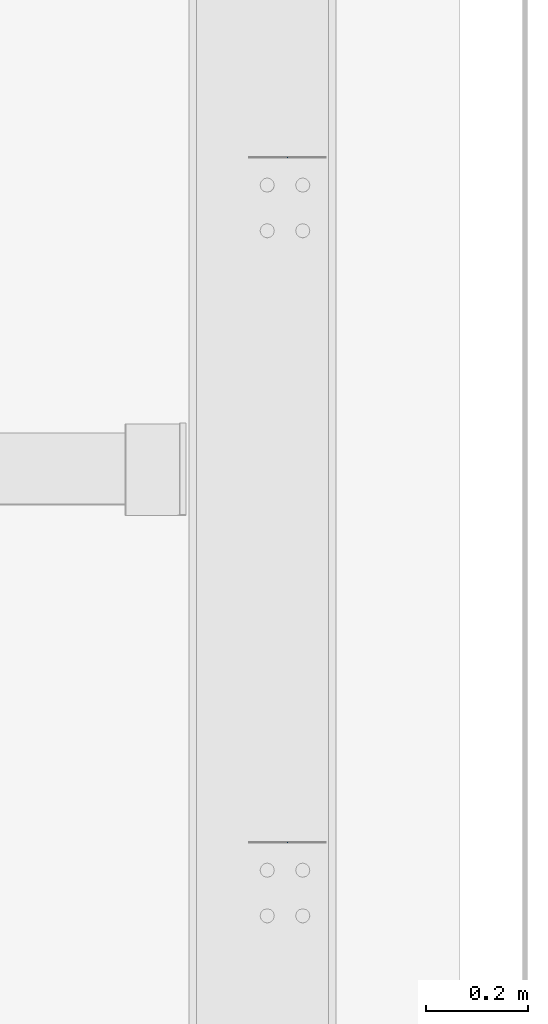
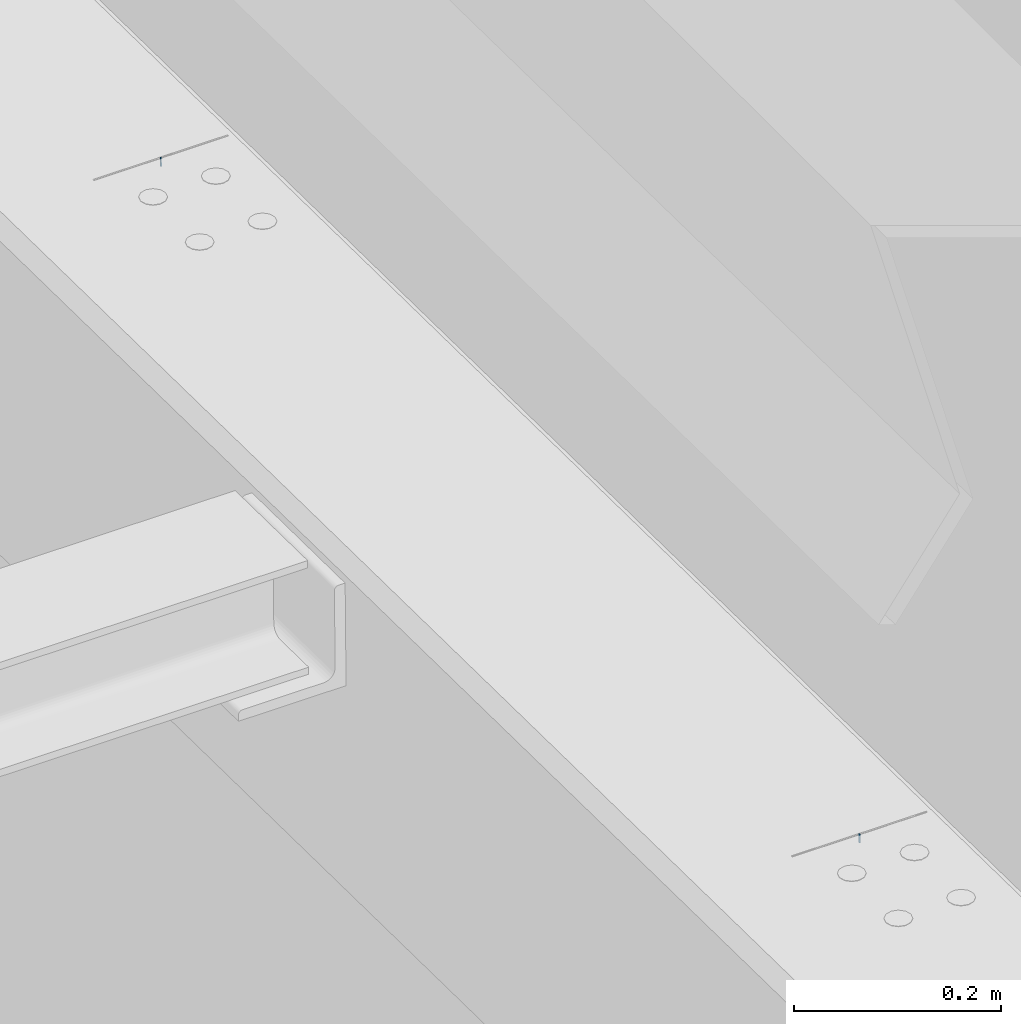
# One storey, part 86 of 186: 2 beams.
"""IFC4X3_ADD2 building model written with IfcOpenShell, lengths in millimetres."""

import ifcopenshell
import ifcopenshell.guid

model = None  # the IFC model being written
_history = None  # IfcOwnerHistory: only IFC2X3 demands one
_inside = {}  # id of a spatial element -> (the spatial element, [elements in it])
_under = {}  # id of a project, library or spatial element -> (it, [spatial elements below it])
_declared = {}  # id of a project -> (the project, [libraries it declares])
_typed = {}  # id of a type object -> (the type object, [elements of that type])
_made_of = {}  # id of a material, layer set ... -> (it, [elements and type objects made of it])


def new_model(schema):
    """Start an empty IFC model of exactly this schema.

    Asked for "IFC4X3", IfcOpenShell would pick the latest addendum, in which some entities
    have other attributes; the version numbers below select the first issue.
    IFC2X3 requires an IfcOwnerHistory on every rooted entity: one is made here for all.
    """
    global model, _history
    if schema == "IFC4X3":
        model = ifcopenshell.file(schema_version=(4, 3, 0, 0))
    else:
        model = ifcopenshell.file(schema=schema)
    _inside.clear()
    _under.clear()
    _declared.clear()
    _typed.clear()
    _made_of.clear()
    _history = None
    if model.schema == "IFC2X3":
        org = make("IfcOrganization", Name="unknown")
        user = make(
            "IfcPersonAndOrganization",
            ThePerson=make("IfcPerson", FamilyName="unknown"),
            TheOrganization=org,
        )
        app = make(
            "IfcApplication",
            ApplicationDeveloper=org,
            Version="unknown",
            ApplicationFullName="unknown",
            ApplicationIdentifier="unknown",
        )
        _history = make(
            "IfcOwnerHistory",
            OwningUser=user,
            OwningApplication=app,
            ChangeAction="ADDED",
            CreationDate=0,
        )
    return model


def make(cls, **values):
    """One entity of the class cls with the attributes given. An attribute that is None is left unset."""
    return model.create_entity(
        cls, **{name: value for name, value in values.items() if value is not None}
    )


def rooted(cls, **values):
    """An entity with a GlobalId (a new one), such as an element, a storey or a relation."""
    return make(cls, GlobalId=ifcopenshell.guid.new(), OwnerHistory=_history, **values)


def si_unit(unit_type, name, prefix=None):
    """IfcSIUnit, for example si_unit("LENGTHUNIT", "METRE", prefix="MILLI")."""
    return make("IfcSIUnit", UnitType=unit_type, Prefix=prefix, Name=name)


def assignment(units):
    """IfcUnitAssignment: the units of a project."""
    return None if units is None else make("IfcUnitAssignment", Units=units)


def point(xyz):
    """IfcCartesianPoint."""
    return None if xyz is None else make("IfcCartesianPoint", Coordinates=xyz)


def direction(xyz):
    """IfcDirection."""
    return None if xyz is None else make("IfcDirection", DirectionRatios=xyz)


def frame(location, z_axis=None, x_axis=None):
    """IfcAxis2Placement3D, a coordinate frame: its origin and axes. An axis left out is left unset."""
    return make(
        "IfcAxis2Placement3D",
        Location=point(location),
        Axis=direction(z_axis),
        RefDirection=direction(x_axis),
    )


def frame_2d(location, x_axis=None):
    """IfcAxis2Placement2D, a coordinate frame in the plane: its origin and x axis."""
    return make(
        "IfcAxis2Placement2D", Location=point(location), RefDirection=direction(x_axis)
    )


def origin_with_axes():
    """The frame at (0, 0, 0) with the z axis (0, 0, 1) and the x axis (1, 0, 0) written out."""
    return frame((0.0, 0.0, 0.0), z_axis=(0.0, 0.0, 1.0), x_axis=(1.0, 0.0, 0.0))


def place(relative_to, where):
    """IfcLocalPlacement: puts the frame where relative to a parent placement (None: the world)."""
    return make(
        "IfcLocalPlacement", PlacementRelTo=relative_to, RelativePlacement=where
    )


def context(
    kind, dimensions, precision=None, world=None, true_north=None, identifier=None
):
    """IfcGeometricRepresentationContext, for example the 3D "Model" context."""
    return make(
        "IfcGeometricRepresentationContext",
        ContextIdentifier=identifier,
        ContextType=kind,
        CoordinateSpaceDimension=dimensions,
        Precision=precision,
        WorldCoordinateSystem=world,
        TrueNorth=true_north,
    )


def subcontext(parent, identifier, kind, view, scale=None):
    """IfcGeometricRepresentationSubContext, for example "Body" below "Model"."""
    return make(
        "IfcGeometricRepresentationSubContext",
        ContextIdentifier=identifier,
        ContextType=kind,
        ParentContext=parent,
        TargetScale=scale,
        TargetView=view,
    )


def project(units=None, contexts=None):
    """IfcProject with its units and contexts."""
    return rooted(
        "IfcProject",
        Name="project",
        RepresentationContexts=contexts,
        UnitsInContext=assignment(units),
    )


def spatial(cls, under=None, at=None, **own):
    """A site, building, storey or space (cls), placed at a placement, below another one or the project."""
    s = rooted(cls, ObjectPlacement=at, **own)
    if under is not None:
        _under.setdefault(under.id(), (under, []))[1].append(s)
    return s


def profile(cls, at=None, kind="AREA", **sizes):
    """A parametric profile (cls). Its sizes go by their IFC names, for example OverallWidth=200.0."""
    return make(cls, ProfileType=kind, Position=at, **sizes)


def rectangle(**sizes):
    """IfcRectangleProfileDef."""
    return profile("IfcRectangleProfileDef", **sizes)


def extrude(swept, where, along, depth):
    """IfcExtrudedAreaSolid: the profile swept, set in the frame where, extruded along a direction by depth."""
    return make(
        "IfcExtrudedAreaSolid",
        SweptArea=swept,
        Position=where,
        ExtrudedDirection=direction(along),
        Depth=depth,
    )


def shape(context_of_items, identifier, shape_type, items):
    """IfcShapeRepresentation: the items that make up one representation, for example the "Body"."""
    return make(
        "IfcShapeRepresentation",
        ContextOfItems=context_of_items,
        RepresentationIdentifier=identifier,
        RepresentationType=shape_type,
        Items=items,
    )


def material(Name=None, Category=None):
    """IfcMaterial."""
    return make("IfcMaterial", Name=Name, Category=Category)


def made_of(thing, what):
    """Note that an element or type object is made of a material, layer set ...; save() writes the relation."""
    if what is not None:
        _made_of.setdefault(what.id(), (what, []))[1].append(thing)
    return thing


def element(
    cls,
    number,
    at=None,
    inside=None,
    cuts=None,
    type_object=None,
    material=None,
    context=None,
    identifier="Body",
    shape_type=None,
    held_by="IfcProductDefinitionShape",
    body=None,
    shapes=None,
    **own,
):
    """One element of the class cls, such as IfcWall. Its Tag is "e" and its number.

    at: its placement. inside: the storey or other place that contains it. cuts: it is an
    opening in that element (IfcRelVoidsElement). A single representation is given by context,
    identifier, shape_type and body (its items); several are given by shapes. held_by: the class
    of the entity that holds the representations. save() writes the other relations.
    """
    e = rooted(cls, Tag="e%d" % number, ObjectPlacement=at, **own)
    if body is not None:
        shapes = [shape(context, identifier, shape_type, body)]
    if shapes is not None:
        e.Representation = make(held_by, Representations=shapes)
    if inside is not None:
        _inside.setdefault(inside.id(), (inside, []))[1].append(e)
    if cuts is not None:
        rooted(
            "IfcRelVoidsElement", RelatingBuildingElement=cuts, RelatedOpeningElement=e
        )
    if type_object is not None:
        _typed.setdefault(type_object.id(), (type_object, []))[1].append(e)
    return made_of(e, material)


def aggregate(whole, parts):
    """IfcRelAggregates: a whole, such as a stair, and the parts it consists of."""
    return rooted("IfcRelAggregates", RelatingObject=whole, RelatedObjects=parts)


def save(model, path):
    """Write the relations noted so far, then the file.

    IfcRelAggregates (storeys below a building ...), IfcRelContainedInSpatialStructure (elements
    in a storey), IfcRelDefinesByType, IfcRelAssociatesMaterial and IfcRelDeclares: one each for
    every whole, place, type object, material and project.
    """
    for whole, parts in _under.values():
        aggregate(whole, parts)
    for where, things in _inside.values():
        rooted(
            "IfcRelContainedInSpatialStructure",
            RelatedElements=things,
            RelatingStructure=where,
        )
    for kind, things in _typed.values():
        rooted("IfcRelDefinesByType", RelatedObjects=things, RelatingType=kind)
    for what, things in _made_of.values():
        rooted("IfcRelAssociatesMaterial", RelatedObjects=things, RelatingMaterial=what)
    for by, libraries in _declared.values():
        rooted("IfcRelDeclares", RelatingContext=by, RelatedDefinitions=libraries)
    model.write(path)


model = new_model("IFC4X3_ADD2")

# Units and contexts
model_context = context("Model", 3, precision=1e-05, world=origin_with_axes(), true_north=direction((0.0, 1.0)))
body_context = subcontext(model_context, "Body", "Model", "MODEL_VIEW")
ifc_project = project(units=[si_unit("LENGTHUNIT", "METRE", prefix="MILLI"), si_unit("AREAUNIT", "SQUARE_METRE"), si_unit("VOLUMEUNIT", "CUBIC_METRE"), si_unit("PLANEANGLEUNIT", "RADIAN"), si_unit("TIMEUNIT", "SECOND"), si_unit("MASSUNIT", "GRAM")], contexts=[model_context])

# Site, building, storey
site_placement = place(None, origin_with_axes())
site = spatial("IfcSite", under=ifc_project, at=site_placement, Name="Site", CompositionType="ELEMENT")
building_placement = place(site_placement, origin_with_axes())
building = spatial("IfcBuilding", under=site, at=building_placement, Name="IFC Building Story")
storey_placement = place(building_placement, frame((0.0, 0.0, 4370.0), z_axis=(0.0, 0.0, 1.0), x_axis=(1.0, 0.0, 0.0)))
storey = spatial("IfcBuildingStorey", under=building, at=storey_placement, Name="ETAGE 10 (1)", Elevation=4370.0)

# Beams
ifc_material = material(Name="STEEL/Accessory_invisible")
for number, where, z_axis, x_axis, name in (
    (1, (48412.192835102, -1635.59919751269, 3170.20422087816), (-1.0, 0.0, 0.0), (0.0, 0.01500926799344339, 0.9998873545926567), "ZW1"),
    (2, (48412.192835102, -2985.597671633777, 3191.17722087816), (-1.0, 0.0, 0.0), (0.0, 0.01500926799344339, 0.9998873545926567), "ZW1"),
):
    element("IfcBeam", number, at=place(storey_placement, frame(where, z_axis=z_axis, x_axis=x_axis)), inside=storey, material=ifc_material, Name=name, ObjectType="1*1 12", context=body_context, shape_type="SweptSolid", body=[
        extrude(rectangle(XDim=10.0, YDim=1.00000000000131, at=frame_2d((0.0, 5.95523630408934e-12), x_axis=(1.0, 0.0))), origin_with_axes(), (0.0, 0.0, 1.0), 1.0),
    ])

save(model, "model.ifc")
